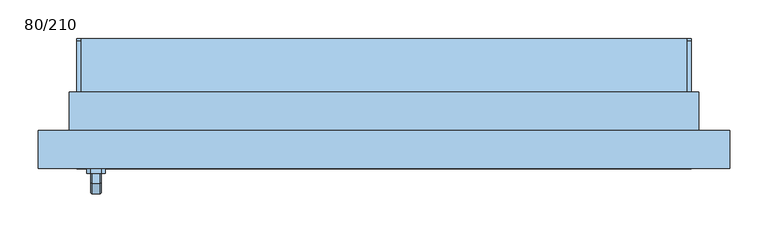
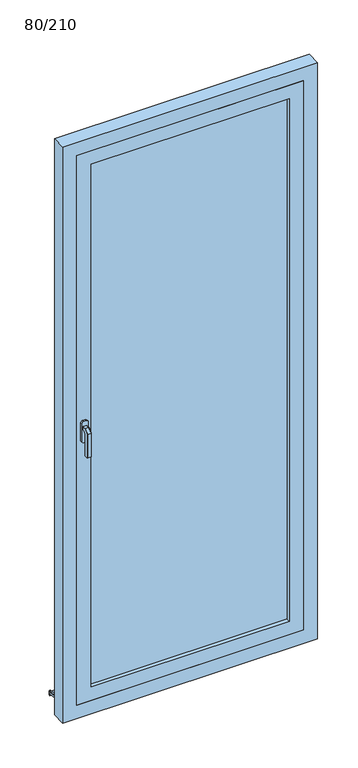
"""IFC4 building model written with IfcOpenShell, lengths in millimetres: window geometry, PF 1 Vantail - Droite blanc : 80/210."""

from ifc_helpers import new_model, si_unit, point, frame, frame_2d, origin, place, context, project, spatial, polyline, circle_curve, trimmed, segment, composite_curve, outline, extrude, faceted_brep, source, transform, mapped, element, save


def window_80_210_cb91392a(model_context):
    return source(origin(), model_context, "Body", "SolidModel", [
        faceted_brep([(-369.3539903, -86.0, 1122.0339292), (-367.9660708, -86.0, 1120.6460097), (-367.9660708, -86.0, 1109.3323012), (-369.3323012, -86.0, 1107.9660708), (-380.6676988, -86.0, 1107.9660708), (-382.0339292, -86.0, 1109.3323012), (-382.0339292, -86.0, 1120.6460097), (-380.6460097, -86.0, 1122.0339292), (-369.3539903, -98.9135489, 1122.0339292), (-367.9660708, -98.3386538, 1120.6460097), (-367.9660708, -111.6460097, 1107.3386538), (-367.9660708, -111.6460097, 1020.0), (-367.9660708, -100.3323012, 1020.0), (-367.9660708, -100.3323012, 1102.6523623), (-367.9660708, -93.6523623, 1109.3323012), (-369.3323012, -93.0864511, 1107.9660708), (-380.6676988, -93.0864511, 1107.9660708), (-382.0339292, -93.6523623, 1109.3323012), (-382.0339292, -100.3323012, 1102.6523623), (-382.0339292, -100.3323012, 1020.0), (-382.0339292, -111.6460097, 1020.0), (-382.0339292, -111.6460097, 1107.3386538), (-382.0339292, -98.3386538, 1120.6460097), (-380.6460097, -98.9135489, 1122.0339292), (-369.3539903, -113.0339292, 1107.9135489), (-369.3323012, -98.9660708, 1102.0864511), (-380.6676988, -98.9660708, 1102.0864511), (-380.6460097, -113.0339292, 1107.9135489), (-369.3539903, -113.0339292, 1020.0), (-380.6460097, -113.0339292, 1020.0), (-380.6676988, -98.9660708, 1020.0), (-369.3323012, -98.9660708, 1020.0)], [[[0, 1, 2, 3, 4, 5, 6, 7]], [[1, 0, 8, 9]], [[2, 1, 9, 10, 11, 12, 13, 14]], [[3, 2, 14, 15]], [[4, 3, 15, 16]], [[5, 4, 16, 17]], [[6, 5, 17, 18, 19, 20, 21, 22]], [[7, 6, 22, 23]], [[0, 7, 23, 8]], [[9, 8, 24, 10]], [[15, 14, 13, 25]], [[16, 15, 25, 26]], [[17, 16, 26, 18]], [[23, 22, 21, 27]], [[8, 23, 27, 24]], [[28, 29, 20, 19, 30, 31, 12, 11]], [[10, 24, 28, 11]], [[25, 13, 12, 31]], [[26, 25, 31, 30]], [[18, 26, 30, 19]], [[27, 21, 20, 29]], [[24, 27, 29, 28]]]),
        extrude(outline(polyline([(1140.0, -368.0), (1140.0, -382.0), (1135.0, -387.0), (1065.0, -387.0), (1060.0, -382.0), (1060.0, -368.0), (1065.0, -363.0), (1135.0, -363.0), (1140.0, -368.0)])), frame((0.0, -86.0, 0.0), z_axis=(0.0, 1.0, 0.0), x_axis=(0.0, 0.0, 1.0)), (0.0, 0.0, 1.0), 6.0),
        extrude(outline(polyline([(90.0288776, 30.7927954), (90.0288776, 19.7145929), (85.0288776, 20.2401141), (85.0288776, 26.0631048), (0.0, 35.0), (0.0, 50.0), (5.0, 50.0), (5.0, 39.7296906), (90.0288776, 30.7927954)])), frame((-400.0, 0.0, 0.0), z_axis=(1.0, 0.0, 0.0), x_axis=(0.0, 1.0, 0.0)), (0.0, 0.0, 1.0), 800.0),
        extrude(outline(composite_curve([segment(polyline([(90.0288776, 30.7927954), (5.0, 39.7296906), (5.0, 44.757232), (86.4469915, 36.1968082)]), True, "CONTINUOUS"), segment(trimmed(circle_curve(frame_2d((86.0288776, 32.2187207)), 4.0), [point((86.4469915, 36.1968082))], [point((90.0288776, 32.2187207))], False, "CARTESIAN"), True, "CONTINUOUS"), segment(polyline([(90.0288776, 32.2187207), (90.0288776, 30.7927954)]), True, "CONTINUOUS")], self_intersect=False)), frame((-400.0, 0.0, 0.0), z_axis=(1.0, 0.0, 0.0), x_axis=(0.0, 1.0, 0.0)), (0.0, 0.0, 1.0), 5.0),
        extrude(outline(composite_curve([segment(polyline([(90.0288776, 30.7927954), (5.0, 39.7296906), (5.0, 44.757232), (86.4469915, 36.1968082)]), True, "CONTINUOUS"), segment(trimmed(circle_curve(frame_2d((86.0288776, 32.2187207)), 4.0), [point((86.4469915, 36.1968082))], [point((90.0288776, 32.2187207))], False, "CARTESIAN"), True, "CONTINUOUS"), segment(polyline([(90.0288776, 32.2187207), (90.0288776, 30.7927954)]), True, "CONTINUOUS")], self_intersect=False)), frame((395.0, 0.0, 0.0), z_axis=(1.0, 0.0, 0.0), x_axis=(0.0, 1.0, 0.0)), (0.0, 0.0, 1.0), 5.0),
        extrude(outline(polyline([(-350.0, -54.0), (350.0, -54.0), (350.0, -66.0), (-350.0, -66.0), (-350.0, -54.0)])), frame((0.0, 0.0, 135.0), z_axis=(0.0, 0.0, 1.0), x_axis=(1.0, 0.0, 0.0)), (0.0, 0.0, 1.0), 1950.0),
        extrude(outline(polyline([(85.0, 400.0), (2135.0, 400.0), (2135.0, -400.0), (85.0, -400.0), (85.0, 400.0)]), holes=[polyline([(135.0, -350.0), (2085.0, -350.0), (2085.0, 350.0), (135.0, 350.0), (135.0, -350.0)])]), frame((0.0, -80.0, 0.0), z_axis=(0.0, 1.0, 0.0), x_axis=(0.0, 0.0, 1.0)), (0.0, 0.0, 1.0), 40.0),
        faceted_brep([(-450.0, -80.0, 35.0), (-450.0, -30.0, 35.0), (-400.0, -30.0, 35.0), (-400.0, 0.0, 35.0), (400.0, 0.0, 35.0), (400.0, -30.0, 35.0), (450.0, -30.0, 35.0), (450.0, -80.0, 35.0), (-450.0, -80.0, 2185.0), (-450.0, -30.0, 2185.0), (450.0, -30.0, 2185.0), (400.0, -30.0, 74.3761425), (-400.0, -30.0, 74.3761425), (-385.0, -30.0, 2120.0), (-385.0, -30.0, 100.0), (385.0, -30.0, 100.0), (385.0, -30.0, 2120.0), (-400.0, 20.0, 60.9786829), (-400.0, 20.0, 45.0), (-400.0, 10.0, 45.0), (-400.0, 10.0, 50.0), (-400.0, 0.0, 50.0), (400.0, 0.0, 50.0), (400.0, 10.0, 50.0), (400.0, 10.0, 45.0), (400.0, 20.0, 45.0), (400.0, 20.0, 60.9786829), (450.0, -80.0, 2185.0), (400.0, -80.0, 2135.0), (400.0, -80.0, 85.0), (-400.0, -80.0, 85.0), (-400.0, -80.0, 2135.0), (-385.0, -40.0, 2120.0), (-385.0, -40.0, 100.0), (385.0, -40.0, 100.0), (385.0, -40.0, 2120.0), (400.0, -40.0, 2135.0), (-400.0, -40.0, 2135.0), (-400.0, -40.0, 85.0), (400.0, -40.0, 85.0)], [[[0, 1, 2, 3, 4, 5, 6, 7]], [[1, 0, 8, 9]], [[1, 9, 10, 6, 5, 11, 12, 2], [13, 14, 15, 16]], [[12, 17, 18, 19, 20, 21, 3, 2]], [[3, 21, 22, 4]], [[4, 22, 23, 24, 25, 26, 11, 5]], [[6, 10, 27, 7]], [[0, 7, 27, 8], [28, 29, 30, 31]], [[13, 32, 33, 14]], [[33, 34, 15, 14]], [[35, 16, 15, 34]], [[17, 12, 11, 26]], [[36, 37, 38, 39], [32, 35, 34, 33]], [[38, 37, 31, 30]], [[30, 29, 39, 38]], [[28, 36, 39, 29]], [[18, 17, 26, 25]], [[19, 18, 25, 24]], [[20, 19, 24, 23]], [[21, 20, 23, 22]], [[13, 16, 35, 32]], [[37, 36, 28, 31]], [[10, 9, 8, 27]]]),
        extrude(outline(polyline([(35.0, -410.0), (35.0, -400.0), (2135.0, -400.0), (2135.0, 400.0), (35.0, 400.0), (35.0, 410.0), (2145.0, 410.0), (2145.0, -410.0), (35.0, -410.0)])), frame((0.0, -30.0, 0.0), z_axis=(0.0, 1.0, 0.0), x_axis=(0.0, 0.0, 1.0)), (0.0, 0.0, 1.0), 50.0),
    ])


if __name__ == "__main__":
    model = new_model("IFC4")
    model_context = context("Model", 3, world=origin())
    ifc_project = project(units=[si_unit("LENGTHUNIT", "METRE", prefix="MILLI")], contexts=[model_context])
    site = spatial("IfcSite", under=ifc_project)
    building = spatial("IfcBuilding", under=site)
    placement = place(None, origin())
    window_80_210_shape = window_80_210_cb91392a(model_context)
    element("IfcWindow", 1, ObjectType="PF 1 Vantail - Droite blanc : 80/210", at=placement, inside=building, context=model_context, shape_type="MappedRepresentation", body=[
        mapped(window_80_210_shape, transform((0.0, 0.0, 0.0), x_axis=(1.0, 0.0, 0.0), y_axis=(0.0, 1.0, 0.0), z_axis=(0.0, 0.0, 1.0))),
    ])
    save(model, "model.ifc")
